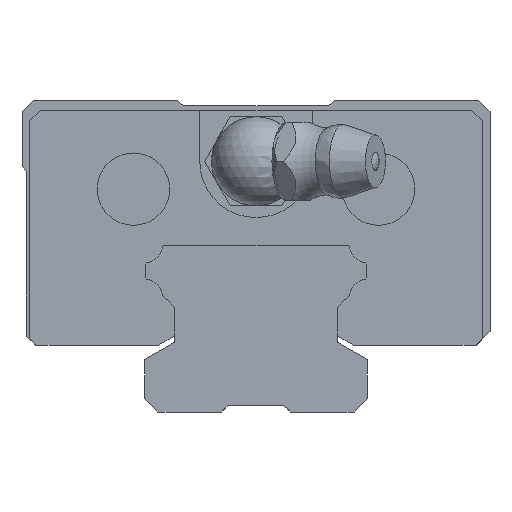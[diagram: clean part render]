
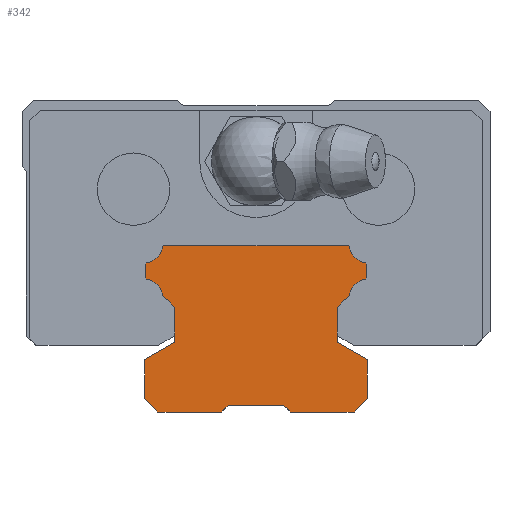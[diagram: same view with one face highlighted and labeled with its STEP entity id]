
A CAD part, front view. The second image highlights one B-rep face of the part: STEP entity #342.
In plain terms, the highlighted planar face has unit normal (0, -1, 0).
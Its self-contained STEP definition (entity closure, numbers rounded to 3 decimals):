
#242=CIRCLE('',#2939,1.8);
#244=CIRCLE('',#2945,1.8);
#247=CIRCLE('',#2971,1.8);
#249=CIRCLE('',#2977,1.8);
#342=ADVANCED_FACE('',(#614),#495,.T.);
#495=PLANE('',#2981);
#614=FACE_OUTER_BOUND('',#756,.T.);
#756=EDGE_LOOP('',(#1090,#1091,#1092,#1093,#1094,#1095,#1096,#1097,#1098,
#1099,#1100,#1101,#1102,#1103,#1104,#1105,#1106,#1107,#1108,#1109,#1110,
#1111,#1112,#1113,#1114,#1115,#1116,#1117));
#1090=ORIENTED_EDGE('',*,*,#1964,.T.);
#1091=ORIENTED_EDGE('',*,*,#2058,.T.);
#1092=ORIENTED_EDGE('',*,*,#2055,.T.);
#1093=ORIENTED_EDGE('',*,*,#2052,.T.);
#1094=ORIENTED_EDGE('',*,*,#2049,.F.);
#1095=ORIENTED_EDGE('',*,*,#2046,.F.);
#1096=ORIENTED_EDGE('',*,*,#2043,.T.);
#1097=ORIENTED_EDGE('',*,*,#2037,.T.);
#1098=ORIENTED_EDGE('',*,*,#2031,.T.);
#1099=ORIENTED_EDGE('',*,*,#2026,.F.);
#1100=ORIENTED_EDGE('',*,*,#2023,.T.);
#1101=ORIENTED_EDGE('',*,*,#2020,.F.);
#1102=ORIENTED_EDGE('',*,*,#2017,.F.);
#1103=ORIENTED_EDGE('',*,*,#2014,.F.);
#1104=ORIENTED_EDGE('',*,*,#2011,.F.);
#1105=ORIENTED_EDGE('',*,*,#2008,.F.);
#1106=ORIENTED_EDGE('',*,*,#2005,.F.);
#1107=ORIENTED_EDGE('',*,*,#2002,.F.);
#1108=ORIENTED_EDGE('',*,*,#1999,.T.);
#1109=ORIENTED_EDGE('',*,*,#1996,.F.);
#1110=ORIENTED_EDGE('',*,*,#1993,.T.);
#1111=ORIENTED_EDGE('',*,*,#1990,.F.);
#1112=ORIENTED_EDGE('',*,*,#1982,.F.);
#1113=ORIENTED_EDGE('',*,*,#2072,.F.);
#1114=ORIENTED_EDGE('',*,*,#2069,.F.);
#1115=ORIENTED_EDGE('',*,*,#2066,.T.);
#1116=ORIENTED_EDGE('',*,*,#2063,.T.);
#1117=ORIENTED_EDGE('',*,*,#2060,.F.);
#1694=VERTEX_POINT('',#3940);
#1695=VERTEX_POINT('',#3942);
#1712=VERTEX_POINT('',#3982);
#1713=VERTEX_POINT('',#3983);
#1720=VERTEX_POINT('',#3999);
#1722=VERTEX_POINT('',#4005);
#1724=VERTEX_POINT('',#4011);
#1726=VERTEX_POINT('',#4017);
#1728=VERTEX_POINT('',#4023);
#1730=VERTEX_POINT('',#4029);
#1732=VERTEX_POINT('',#4035);
#1734=VERTEX_POINT('',#4041);
#1736=VERTEX_POINT('',#4047);
#1738=VERTEX_POINT('',#4053);
#1740=VERTEX_POINT('',#4059);
#1742=VERTEX_POINT('',#4065);
#1744=VERTEX_POINT('',#4071);
#1746=VERTEX_POINT('',#4079);
#1749=VERTEX_POINT('',#4089);
#1750=VERTEX_POINT('',#4097);
#1752=VERTEX_POINT('',#4103);
#1754=VERTEX_POINT('',#4109);
#1756=VERTEX_POINT('',#4115);
#1758=VERTEX_POINT('',#4121);
#1760=VERTEX_POINT('',#4130);
#1762=VERTEX_POINT('',#4136);
#1764=VERTEX_POINT('',#4142);
#1766=VERTEX_POINT('',#4148);
#1964=EDGE_CURVE('',#1695,#1694,#2353,.T.);
#1982=EDGE_CURVE('',#1712,#1713,#2364,.T.);
#1990=EDGE_CURVE('',#1713,#1720,#2368,.T.);
#1993=EDGE_CURVE('',#1722,#1720,#2371,.T.);
#1996=EDGE_CURVE('',#1722,#1724,#242,.T.);
#1999=EDGE_CURVE('',#1726,#1724,#2375,.T.);
#2002=EDGE_CURVE('',#1726,#1728,#2378,.T.);
#2005=EDGE_CURVE('',#1728,#1730,#2381,.T.);
#2008=EDGE_CURVE('',#1730,#1732,#244,.T.);
#2011=EDGE_CURVE('',#1732,#1734,#2385,.T.);
#2014=EDGE_CURVE('',#1734,#1736,#2388,.T.);
#2017=EDGE_CURVE('',#1736,#1738,#2391,.T.);
#2020=EDGE_CURVE('',#1738,#1740,#2394,.T.);
#2023=EDGE_CURVE('',#1742,#1740,#2397,.T.);
#2026=EDGE_CURVE('',#1742,#1744,#2400,.T.);
#2031=EDGE_CURVE('',#1746,#1744,#2404,.T.);
#2037=EDGE_CURVE('',#1749,#1746,#2406,.T.);
#2043=EDGE_CURVE('',#1750,#1749,#2408,.T.);
#2046=EDGE_CURVE('',#1750,#1752,#2411,.T.);
#2049=EDGE_CURVE('',#1752,#1754,#2414,.T.);
#2052=EDGE_CURVE('',#1756,#1754,#2417,.T.);
#2055=EDGE_CURVE('',#1758,#1756,#2420,.T.);
#2058=EDGE_CURVE('',#1694,#1758,#2423,.T.);
#2060=EDGE_CURVE('',#1695,#1760,#247,.T.);
#2063=EDGE_CURVE('',#1762,#1760,#2426,.T.);
#2066=EDGE_CURVE('',#1764,#1762,#2429,.T.);
#2069=EDGE_CURVE('',#1764,#1766,#2432,.T.);
#2072=EDGE_CURVE('',#1766,#1712,#249,.T.);
#2353=LINE('',#3941,#2637);
#2364=LINE('',#3981,#2648);
#2368=LINE('',#3998,#2652);
#2371=LINE('',#4004,#2655);
#2375=LINE('',#4016,#2659);
#2378=LINE('',#4022,#2662);
#2381=LINE('',#4028,#2665);
#2385=LINE('',#4040,#2669);
#2388=LINE('',#4046,#2672);
#2391=LINE('',#4052,#2675);
#2394=LINE('',#4058,#2678);
#2397=LINE('',#4064,#2681);
#2400=LINE('',#4070,#2684);
#2404=LINE('',#4078,#2688);
#2406=LINE('',#4088,#2690);
#2408=LINE('',#4096,#2692);
#2411=LINE('',#4102,#2695);
#2414=LINE('',#4108,#2698);
#2417=LINE('',#4114,#2701);
#2420=LINE('',#4120,#2704);
#2423=LINE('',#4126,#2707);
#2426=LINE('',#4135,#2710);
#2429=LINE('',#4141,#2713);
#2432=LINE('',#4147,#2716);
#2637=VECTOR('',#3167,1.);
#2648=VECTOR('',#3202,1.);
#2652=VECTOR('',#3216,1.);
#2655=VECTOR('',#3221,1.);
#2659=VECTOR('',#3233,1.);
#2662=VECTOR('',#3238,1.);
#2665=VECTOR('',#3243,1.);
#2669=VECTOR('',#3255,1.);
#2672=VECTOR('',#3260,1.);
#2675=VECTOR('',#3265,1.);
#2678=VECTOR('',#3270,1.);
#2681=VECTOR('',#3275,1.);
#2684=VECTOR('',#3280,1.);
#2688=VECTOR('',#3288,1.);
#2690=VECTOR('',#3300,1.);
#2692=VECTOR('',#3312,1.);
#2695=VECTOR('',#3317,1.);
#2698=VECTOR('',#3322,1.);
#2701=VECTOR('',#3327,1.);
#2704=VECTOR('',#3332,1.);
#2707=VECTOR('',#3337,1.);
#2710=VECTOR('',#3348,1.);
#2713=VECTOR('',#3353,1.);
#2716=VECTOR('',#3358,1.);
#2939=AXIS2_PLACEMENT_3D('',#4010,#3226,#3227);
#2945=AXIS2_PLACEMENT_3D('',#4034,#3248,#3249);
#2971=AXIS2_PLACEMENT_3D('',#4129,#3341,#3342);
#2977=AXIS2_PLACEMENT_3D('',#4153,#3363,#3364);
#2981=AXIS2_PLACEMENT_3D('',#4157,#3371,#3372);
#3167=DIRECTION('',(0.707,0.,-0.707));
#3202=DIRECTION('',(0.707,0.,0.707));
#3216=DIRECTION('',(1.,0.,0.));
#3221=DIRECTION('',(-0.707,0.,0.707));
#3226=DIRECTION('',(0.,-1.,0.));
#3227=DIRECTION('',(1.,0.,0.));
#3233=DIRECTION('',(-0.707,0.,0.707));
#3238=DIRECTION('',(0.,0.,-1.));
#3243=DIRECTION('',(-0.707,0.,-0.707));
#3248=DIRECTION('',(0.,-1.,0.));
#3249=DIRECTION('',(1.,0.,0.));
#3255=DIRECTION('',(-0.707,0.,-0.707));
#3260=DIRECTION('',(0.,0.,-1.));
#3265=DIRECTION('',(0.866,0.,-0.5));
#3270=DIRECTION('',(0.,0.,-1.));
#3275=DIRECTION('',(0.707,0.,0.707));
#3280=DIRECTION('',(-1.,0.,0.));
#3288=DIRECTION('',(0.707,0.,-0.707));
#3300=DIRECTION('',(1.,0.,0.));
#3312=DIRECTION('',(0.707,0.,0.707));
#3317=DIRECTION('',(-1.,0.,0.));
#3322=DIRECTION('',(-0.707,0.,0.707));
#3327=DIRECTION('',(0.,0.,-1.));
#3332=DIRECTION('',(-0.866,0.,-0.5));
#3337=DIRECTION('',(0.,0.,-1.));
#3341=DIRECTION('',(0.,-1.,0.));
#3342=DIRECTION('',(1.,0.,0.));
#3348=DIRECTION('',(0.707,0.,-0.707));
#3353=DIRECTION('',(0.,0.,-1.));
#3358=DIRECTION('',(0.707,0.,0.707));
#3363=DIRECTION('',(0.,-1.,0.));
#3364=DIRECTION('',(1.,0.,0.));
#3371=DIRECTION('',(0.,-1.,0.));
#3372=DIRECTION('',(0.,0.,-1.));
#3940=CARTESIAN_POINT('',(-7.3,-110.,8.796));
#3941=CARTESIAN_POINT('',(-8.372,-110.,9.868));
#3942=CARTESIAN_POINT('',(-8.372,-110.,9.868));
#3981=CARTESIAN_POINT('',(-8.372,-110.,14.232));
#3982=CARTESIAN_POINT('',(-8.372,-110.,14.232));
#3983=CARTESIAN_POINT('',(-8.274,-110.,14.33));
#3998=CARTESIAN_POINT('',(0.,-110.,14.33));
#3999=CARTESIAN_POINT('',(8.274,-110.,14.33));
#4004=CARTESIAN_POINT('',(8.372,-110.,14.232));
#4005=CARTESIAN_POINT('',(8.372,-110.,14.232));
#4010=CARTESIAN_POINT('',(10.145,-110.,14.545));
#4011=CARTESIAN_POINT('',(9.832,-110.,12.772));
#4016=CARTESIAN_POINT('',(9.93,-110.,12.674));
#4017=CARTESIAN_POINT('',(9.93,-110.,12.674));
#4022=CARTESIAN_POINT('',(9.93,-110.,12.674));
#4023=CARTESIAN_POINT('',(9.93,-110.,11.426));
#4028=CARTESIAN_POINT('',(9.93,-110.,11.426));
#4029=CARTESIAN_POINT('',(9.832,-110.,11.328));
#4034=CARTESIAN_POINT('',(10.145,-110.,9.555));
#4035=CARTESIAN_POINT('',(8.372,-110.,9.868));
#4040=CARTESIAN_POINT('',(8.372,-110.,9.868));
#4041=CARTESIAN_POINT('',(7.3,-110.,8.796));
#4046=CARTESIAN_POINT('',(7.3,-110.,6.236));
#4047=CARTESIAN_POINT('',(7.3,-110.,5.659));
#4052=CARTESIAN_POINT('',(7.3,-110.,5.659));
#4053=CARTESIAN_POINT('',(10.,-110.,4.1));
#4058=CARTESIAN_POINT('',(10.,-110.,4.1));
#4059=CARTESIAN_POINT('',(10.,-110.,0.6));
#4064=CARTESIAN_POINT('',(8.8,-110.,-0.6));
#4065=CARTESIAN_POINT('',(8.8,-110.,-0.6));
#4070=CARTESIAN_POINT('',(8.8,-110.,-0.6));
#4071=CARTESIAN_POINT('',(3.1,-110.,-0.6));
#4078=CARTESIAN_POINT('',(2.5,-110.,0.));
#4079=CARTESIAN_POINT('',(2.5,-110.,0.));
#4088=CARTESIAN_POINT('',(-2.5,-110.,0.));
#4089=CARTESIAN_POINT('',(-2.5,-110.,0.));
#4096=CARTESIAN_POINT('',(-3.1,-110.,-0.6));
#4097=CARTESIAN_POINT('',(-3.1,-110.,-0.6));
#4102=CARTESIAN_POINT('',(-3.1,-110.,-0.6));
#4103=CARTESIAN_POINT('',(-8.8,-110.,-0.6));
#4108=CARTESIAN_POINT('',(-8.8,-110.,-0.6));
#4109=CARTESIAN_POINT('',(-10.,-110.,0.6));
#4114=CARTESIAN_POINT('',(-10.,-110.,4.1));
#4115=CARTESIAN_POINT('',(-10.,-110.,4.1));
#4120=CARTESIAN_POINT('',(-7.3,-110.,5.659));
#4121=CARTESIAN_POINT('',(-7.3,-110.,5.659));
#4126=CARTESIAN_POINT('',(-7.3,-110.,6.236));
#4129=CARTESIAN_POINT('',(-10.145,-110.,9.555));
#4130=CARTESIAN_POINT('',(-9.832,-110.,11.328));
#4135=CARTESIAN_POINT('',(-9.93,-110.,11.426));
#4136=CARTESIAN_POINT('',(-9.93,-110.,11.426));
#4141=CARTESIAN_POINT('',(-9.93,-110.,12.674));
#4142=CARTESIAN_POINT('',(-9.93,-110.,12.674));
#4147=CARTESIAN_POINT('',(-9.93,-110.,12.674));
#4148=CARTESIAN_POINT('',(-9.832,-110.,12.772));
#4153=CARTESIAN_POINT('',(-10.145,-110.,14.545));
#4157=CARTESIAN_POINT('',(10.145,-110.,14.545));
